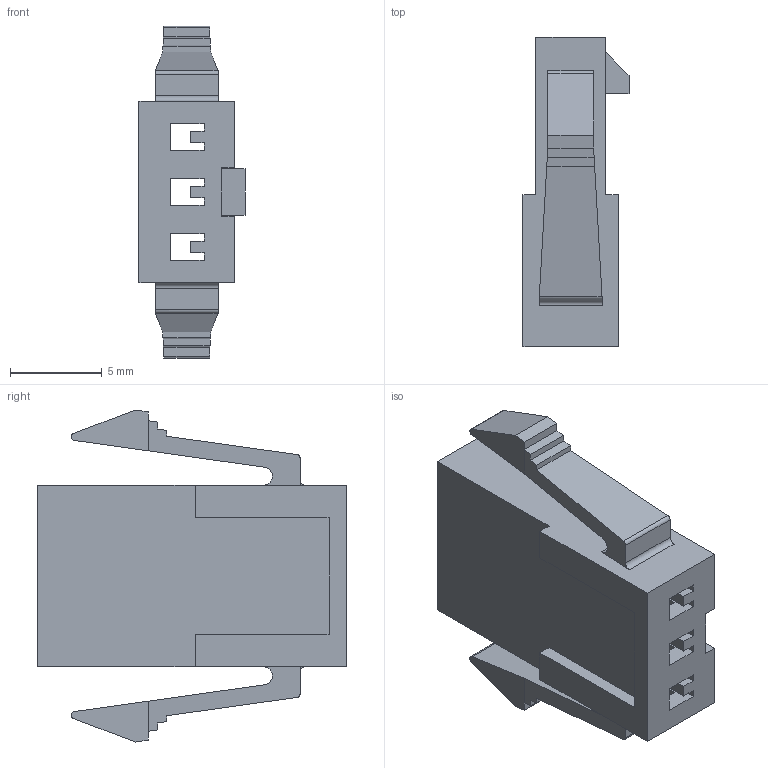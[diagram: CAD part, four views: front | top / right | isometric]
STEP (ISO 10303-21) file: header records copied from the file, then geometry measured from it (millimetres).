
FILE_DESCRIPTION (( 'STEP AP214' ), '1' );
FILE_NAME ('HC-MX3.0-3EY-05（3.0 单排 母孔座-HCTL）.STEP', '2024-10-18T02:43:25', ( '' ), ( '' ), 'SwSTEP 2.0', 'SolidWorks 2022', '' );
FILE_SCHEMA (( 'AUTOMOTIVE_DESIGN' ));
Length unit declared in the file: millimetre
Products named in the file (1): HC-MX3.0-3EY-05（3.0 单排 母孔座-HCTL）
Bounding box: 5.78 x 16.88 x 18.1 mm (x, y, z)
Volume: 609.2 mm3; surface area: 1232.8 mm2
Topology: 1 solids, 1 shells, 133 faces, 376 edges, 248 vertices
Faces by surface type: plane 125, cylinder 8
Entity records: 4260 total; most frequent: CARTESIAN_POINT 782, ORIENTED_EDGE 752, DIRECTION 644, EDGE_CURVE 376, VECTOR 360, LINE 360, VERTEX_POINT 248, AXIS2_PLACEMENT_3D 142
